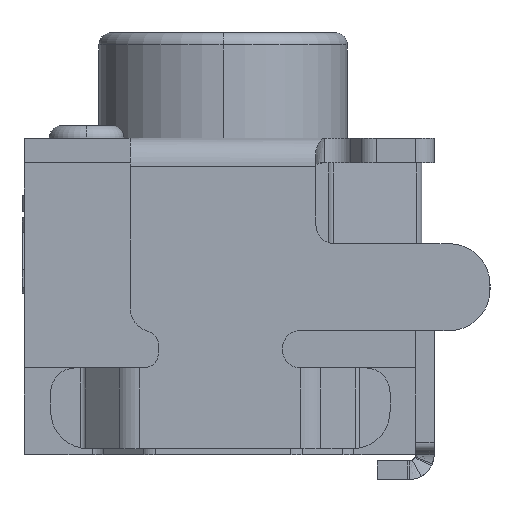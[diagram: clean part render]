
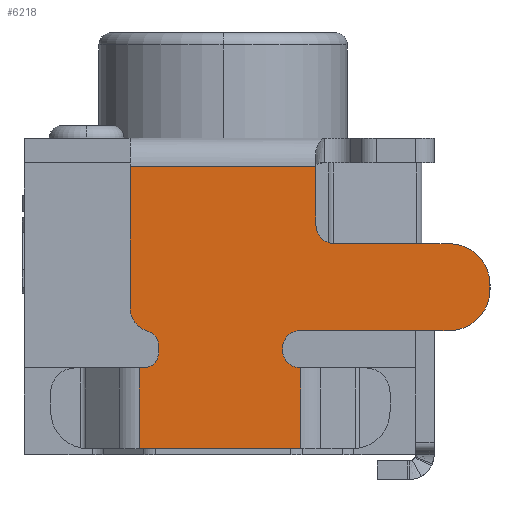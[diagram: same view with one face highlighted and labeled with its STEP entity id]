
A CAD part, left-side view. The second image highlights one B-rep face of the part: STEP entity #6218.
In plain terms, the highlighted planar face has unit normal (-1, 0, 0) as drawn and (1, 0, 0) by its records, which use the part's own axes.
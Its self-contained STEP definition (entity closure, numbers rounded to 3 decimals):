
#3470=DIRECTION('',(0.,0.,1.));
#3471=VECTOR('',#3470,0.471);
#3472=CARTESIAN_POINT('',(2.275,-0.498,
0.03));
#3473=LINE('',#3472,#3471);
#3548=DIRECTION('',(0.,1.,0.));
#3549=VECTOR('',#3548,1.298);
#3550=CARTESIAN_POINT('',(2.275,-0.374,2.301));
#3551=LINE('',#3550,#3549);
#3612=DIRECTION('',(0.,-1.,0.));
#3613=VECTOR('',#3612,0.034);
#3614=CARTESIAN_POINT('',(2.275,0.924,1.651));
#3615=LINE('',#3614,#3613);
#3628=DIRECTION('',(0.,0.,-1.));
#3629=VECTOR('',#3628,0.06);
#3630=CARTESIAN_POINT('',(2.275,0.77,1.531));
#3631=LINE('',#3630,#3629);
#3648=DIRECTION('',(0.,0.,-1.));
#3649=VECTOR('',#3648,1.134);
#3650=CARTESIAN_POINT('',(2.275,1.,1.164));
#3651=LINE('',#3650,#3649);
#3692=DIRECTION('',(0.,-1.,0.));
#3693=VECTOR('',#3692,1.498);
#3694=CARTESIAN_POINT('',(2.275,1.,0.03));
#3695=LINE('',#3694,#3693);
#3696=CARTESIAN_POINT('',(2.275,0.89,1.531));
#3697=DIRECTION('',(1.,0.,0.));
#3698=DIRECTION('',(0.,0.,1.));
#3699=AXIS2_PLACEMENT_3D('',#3696,#3697,#3698);
#3701=CARTESIAN_POINT('',(2.275,0.89,1.471));
#3702=DIRECTION('',(1.,0.,0.));
#3703=DIRECTION('',(0.,-1.,0.));
#3704=AXIS2_PLACEMENT_3D('',#3701,#3702,#3703);
#3706=CARTESIAN_POINT('',(2.275,0.8,1.164));
#3707=DIRECTION('',(-1.,0.,0.));
#3708=DIRECTION('',(0.,0.281,0.96));
#3709=AXIS2_PLACEMENT_3D('',#3706,#3707,#3708);
#3711=CARTESIAN_POINT('',(2.275,-0.648,0.501));
#3712=DIRECTION('',(1.,0.,0.));
#3713=DIRECTION('',(0.,1.,0.));
#3714=AXIS2_PLACEMENT_3D('',#3711,#3712,#3713);
#3716=CARTESIAN_POINT('',(2.275,-1.57,0.981));
#3717=DIRECTION('',(-1.,0.,0.));
#3718=DIRECTION('',(0.,0.,-1.));
#3719=AXIS2_PLACEMENT_3D('',#3716,#3717,#3718);
#3721=CARTESIAN_POINT('',(2.275,-1.57,1.021));
#3722=DIRECTION('',(-1.,0.,0.));
#3723=DIRECTION('',(0.,-1.,0.));
#3724=AXIS2_PLACEMENT_3D('',#3721,#3722,#3723);
#3726=CARTESIAN_POINT('',(2.275,-0.37,1.491));
#3727=DIRECTION('',(1.,0.,0.));
#3728=DIRECTION('',(0.,0.,-1.));
#3729=AXIS2_PLACEMENT_3D('',#3726,#3727,#3728);
#3731=CARTESIAN_POINT('',(2.275,-0.37,1.511));
#3732=DIRECTION('',(1.,0.,0.));
#3733=DIRECTION('',(0.,1.,0.));
#3734=AXIS2_PLACEMENT_3D('',#3731,#3732,#3733);
#3736=DIRECTION('',(0.,0.,-1.));
#3737=VECTOR('',#3736,0.65);
#3738=CARTESIAN_POINT('',(2.275,0.924,2.301));
#3739=LINE('',#3738,#3737);
#3756=DIRECTION('',(0.,-1.,0.));
#3757=VECTOR('',#3756,0.922);
#3758=CARTESIAN_POINT('',(2.275,-0.648,0.651));
#3759=LINE('',#3758,#3757);
#3772=DIRECTION('',(0.,0.,1.));
#3773=VECTOR('',#3772,0.04);
#3774=CARTESIAN_POINT('',(2.275,-1.9,0.981));
#3775=LINE('',#3774,#3773);
#3788=DIRECTION('',(0.,1.,0.));
#3789=VECTOR('',#3788,1.2);
#3790=CARTESIAN_POINT('',(2.275,-1.57,1.351));
#3791=LINE('',#3790,#3789);
#3804=DIRECTION('',(0.,0.,1.));
#3805=VECTOR('',#3804,0.02);
#3806=CARTESIAN_POINT('',(2.275,-0.23,1.491));
#3807=LINE('',#3806,#3805);
#3816=DIRECTION('',(0.,-1.,0.));
#3817=VECTOR('',#3816,0.004);
#3818=CARTESIAN_POINT('',(2.275,-0.37,1.651));
#3819=LINE('',#3818,#3817);
#3976=DIRECTION('',(0.,0.,1.));
#3977=VECTOR('',#3976,0.65);
#3978=CARTESIAN_POINT('',(2.275,-0.374,
1.651));
#3979=LINE('',#3978,#3977);
#4844=CARTESIAN_POINT('',(2.275,0.924,2.301));
#4845=CARTESIAN_POINT('',(2.275,0.924,1.651));
#4846=VERTEX_POINT('',#4844);
#4847=VERTEX_POINT('',#4845);
#4848=CARTESIAN_POINT('',(2.275,-0.374,2.301));
#4849=VERTEX_POINT('',#4848);
#4850=CARTESIAN_POINT('',(2.275,-0.374,
1.651));
#4851=VERTEX_POINT('',#4850);
#4852=CARTESIAN_POINT('',(2.275,-0.37,1.651));
#4853=VERTEX_POINT('',#4852);
#4854=CARTESIAN_POINT('',(2.275,-0.23,1.511));
#4855=VERTEX_POINT('',#4854);
#4856=CARTESIAN_POINT('',(2.275,-0.23,1.491));
#4857=VERTEX_POINT('',#4856);
#4858=CARTESIAN_POINT('',(2.275,-0.37,1.351));
#4859=VERTEX_POINT('',#4858);
#4860=CARTESIAN_POINT('',(2.275,-1.57,1.351));
#4861=VERTEX_POINT('',#4860);
#4862=CARTESIAN_POINT('',(2.275,-1.9,1.021));
#4863=VERTEX_POINT('',#4862);
#4864=CARTESIAN_POINT('',(2.275,-1.9,0.981));
#4865=VERTEX_POINT('',#4864);
#4866=CARTESIAN_POINT('',(2.275,-1.57,0.651));
#4867=VERTEX_POINT('',#4866);
#4868=CARTESIAN_POINT('',(2.275,-0.648,0.651));
#4869=VERTEX_POINT('',#4868);
#4870=CARTESIAN_POINT('',(2.275,-0.498,0.501));
#4871=VERTEX_POINT('',#4870);
#4872=CARTESIAN_POINT('',(2.275,-0.498,
0.03));
#4873=VERTEX_POINT('',#4872);
#4874=CARTESIAN_POINT('',(2.275,1.,0.03));
#4875=VERTEX_POINT('',#4874);
#4876=CARTESIAN_POINT('',(2.275,1.,1.164));
#4877=VERTEX_POINT('',#4876);
#4878=CARTESIAN_POINT('',(2.275,0.856,1.356));
#4879=VERTEX_POINT('',#4878);
#4880=CARTESIAN_POINT('',(2.275,0.77,1.471));
#4881=VERTEX_POINT('',#4880);
#4882=CARTESIAN_POINT('',(2.275,0.77,1.531));
#4883=VERTEX_POINT('',#4882);
#4884=CARTESIAN_POINT('',(2.275,0.89,1.651));
#4885=VERTEX_POINT('',#4884);
#6178=CARTESIAN_POINT('',(2.275,-0.45,1.165));
#6179=DIRECTION('',(1.,0.,0.));
#6180=DIRECTION('',(0.,0.,1.));
#6181=AXIS2_PLACEMENT_3D('',#6178,#6179,#6180);
#6182=PLANE('',#6181);
#6184=ORIENTED_EDGE('',*,*,#6183,.T.);
#6185=ORIENTED_EDGE('',*,*,#6061,.T.);
#6186=ORIENTED_EDGE('',*,*,#6074,.T.);
#6187=ORIENTED_EDGE('',*,*,#6089,.T.);
#6188=ORIENTED_EDGE('',*,*,#6102,.T.);
#6189=ORIENTED_EDGE('',*,*,#6117,.T.);
#6190=ORIENTED_EDGE('',*,*,#6130,.T.);
#6191=ORIENTED_EDGE('',*,*,#6172,.T.);
#6192=ORIENTED_EDGE('',*,*,#5854,.T.);
#6194=ORIENTED_EDGE('',*,*,#6193,.T.);
#6196=ORIENTED_EDGE('',*,*,#6195,.T.);
#6198=ORIENTED_EDGE('',*,*,#6197,.T.);
#6200=ORIENTED_EDGE('',*,*,#6199,.T.);
#6202=ORIENTED_EDGE('',*,*,#6201,.T.);
#6204=ORIENTED_EDGE('',*,*,#6203,.T.);
#6206=ORIENTED_EDGE('',*,*,#6205,.T.);
#6208=ORIENTED_EDGE('',*,*,#6207,.T.);
#6210=ORIENTED_EDGE('',*,*,#6209,.T.);
#6212=ORIENTED_EDGE('',*,*,#6211,.T.);
#6214=ORIENTED_EDGE('',*,*,#6213,.T.);
#6215=ORIENTED_EDGE('',*,*,#5947,.T.);
#6216=EDGE_LOOP('',(#6184,#6185,#6186,#6187,#6188,#6189,#6190,#6191,#6192,#6194,
#6196,#6198,#6200,#6202,#6204,#6206,#6208,#6210,#6212,#6214,#6215));
#6217=FACE_OUTER_BOUND('',#6216,.F.);
#3700=CIRCLE('',#3699,0.12);
#3705=CIRCLE('',#3704,0.12);
#3710=CIRCLE('',#3709,0.2);
#3715=CIRCLE('',#3714,0.15);
#3720=CIRCLE('',#3719,0.33);
#3725=CIRCLE('',#3724,0.33);
#3730=CIRCLE('',#3729,0.14);
#3735=CIRCLE('',#3734,0.14);
#5854=EDGE_CURVE('',#4873,#4871,#3473,.T.);
#5947=EDGE_CURVE('',#4849,#4846,#3551,.T.);
#6061=EDGE_CURVE('',#4847,#4885,#3615,.T.);
#6074=EDGE_CURVE('',#4885,#4883,#3700,.T.);
#6089=EDGE_CURVE('',#4883,#4881,#3631,.T.);
#6102=EDGE_CURVE('',#4881,#4879,#3705,.T.);
#6117=EDGE_CURVE('',#4879,#4877,#3710,.T.);
#6130=EDGE_CURVE('',#4877,#4875,#3651,.T.);
#6172=EDGE_CURVE('',#4875,#4873,#3695,.T.);
#6183=EDGE_CURVE('',#4846,#4847,#3739,.T.);
#6193=EDGE_CURVE('',#4871,#4869,#3715,.T.);
#6195=EDGE_CURVE('',#4869,#4867,#3759,.T.);
#6197=EDGE_CURVE('',#4867,#4865,#3720,.T.);
#6199=EDGE_CURVE('',#4865,#4863,#3775,.T.);
#6201=EDGE_CURVE('',#4863,#4861,#3725,.T.);
#6203=EDGE_CURVE('',#4861,#4859,#3791,.T.);
#6205=EDGE_CURVE('',#4859,#4857,#3730,.T.);
#6207=EDGE_CURVE('',#4857,#4855,#3807,.T.);
#6209=EDGE_CURVE('',#4855,#4853,#3735,.T.);
#6211=EDGE_CURVE('',#4853,#4851,#3819,.T.);
#6213=EDGE_CURVE('',#4851,#4849,#3979,.T.);
#6218=ADVANCED_FACE('',(#6217),#6182,.T.);
